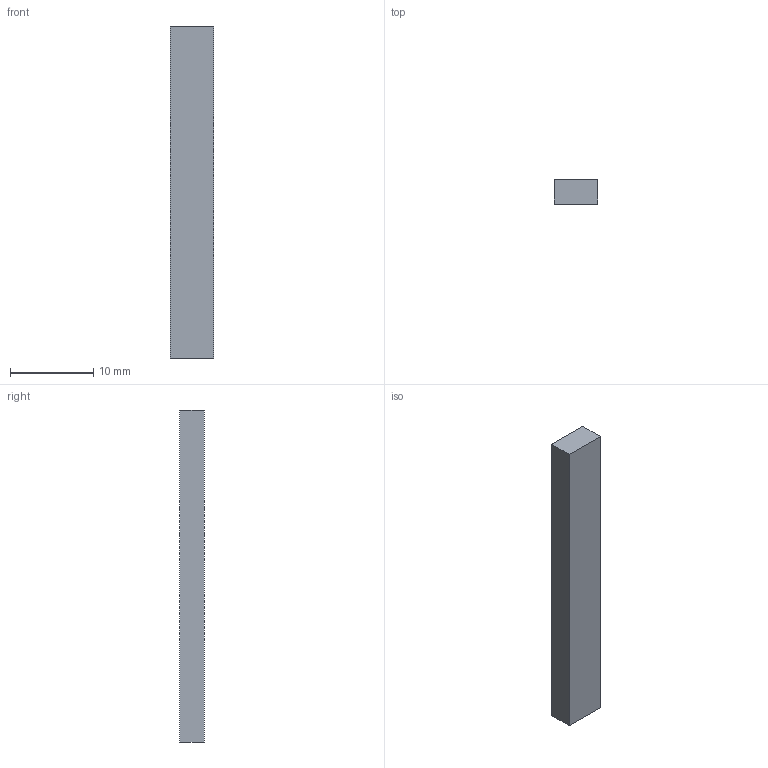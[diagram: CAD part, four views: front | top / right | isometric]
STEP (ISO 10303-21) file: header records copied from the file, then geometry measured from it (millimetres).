
FILE_DESCRIPTION (( 'STEP AP214' ), '1' );
FILE_NAME ('LS1510B_DriveRod_40-PiezoMotor.STEP', '2017-06-07T12:17:12', ( '' ), ( '' ), 'SwSTEP 2.0', 'SolidWorks 2016', '' );
FILE_SCHEMA (( 'AUTOMOTIVE_DESIGN' ));
Length unit declared in the file: millimetre
Products named in the file (2): LS1510B_DriveRod_40-PiezoMotor
Bounding box: 5.3 x 3 x 40 mm (x, y, z)
Volume: 636 mm3; surface area: 695.8 mm2
Topology: 1 solids, 1 shells, 6 faces, 12 edges, 8 vertices
Faces by surface type: plane 6
Entity records: 205 total; most frequent: DIRECTION 28, CARTESIAN_POINT 28, ORIENTED_EDGE 24, EDGE_CURVE 12, LINE 12, VECTOR 12, AXIS2_PLACEMENT_3D 8, VERTEX_POINT 8
